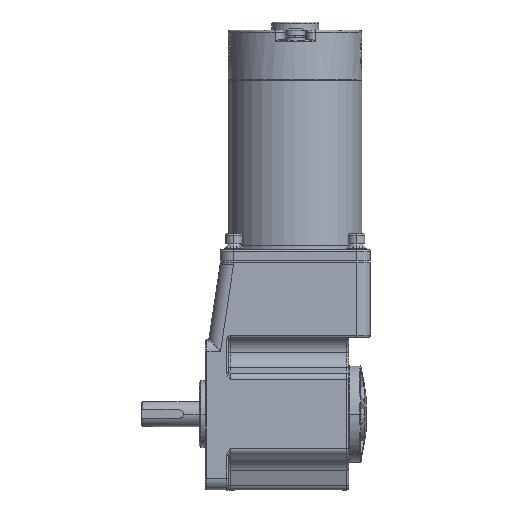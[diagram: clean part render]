
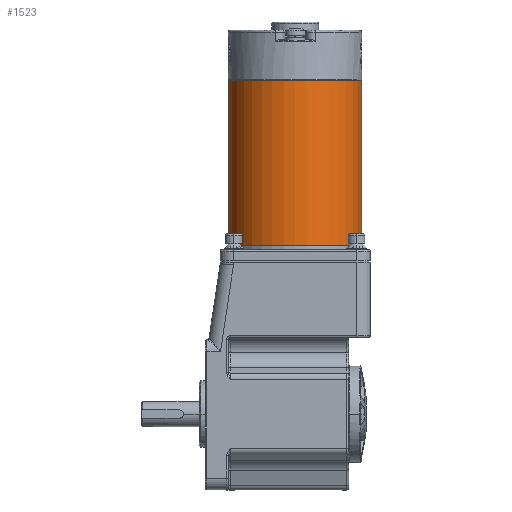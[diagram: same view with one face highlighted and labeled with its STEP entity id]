
A CAD part, front view. The second image highlights one B-rep face of the part: STEP entity #1523.
In plain terms, the highlighted cylindrical face has radius 40 mm (diameter 80 mm), a partial arc.
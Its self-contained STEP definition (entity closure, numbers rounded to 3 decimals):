
#660 = CARTESIAN_POINT ( 'NONE',  ( 0., 98.7, 0. ) ) ;
#1523 = ADVANCED_FACE ( 'NONE', ( #49406 ), #78069, .T. ) ;
#2664 = EDGE_CURVE ( 'NONE', #74170, #56957, #71638, .T. ) ;
#4097 = ORIENTED_EDGE ( 'NONE', *, *, #14475, .T. ) ;
#5392 = VECTOR ( 'NONE', #7338, 1000. ) ;
#5832 = DIRECTION ( 'NONE',  ( 0., 1., 0. ) ) ;
#7338 = DIRECTION ( 'NONE',  ( 0., 1., 0. ) ) ;
#11425 = AXIS2_PLACEMENT_3D ( 'NONE', #59346, #87520, #23206 ) ;
#14475 = EDGE_CURVE ( 'NONE', #68889, #25366, #82445, .T. ) ;
#17294 = EDGE_LOOP ( 'NONE', ( #62646, #58422, #65060, #4097, #40883 ) ) ;
#21317 = DIRECTION ( 'NONE',  ( 0., 0., 1. ) ) ;
#21866 = CIRCLE ( 'NONE', #11425, 40. ) ;
#23206 = DIRECTION ( 'NONE',  ( 0., 0., 1. ) ) ;
#25366 = VERTEX_POINT ( 'NONE', #48242 ) ;
#32235 = CARTESIAN_POINT ( 'NONE',  ( 0., 0., 40. ) ) ;
#36795 = DIRECTION ( 'NONE',  ( 0., -1., 0. ) ) ;
#38521 = VERTEX_POINT ( 'NONE', #58390 ) ;
#40086 = DIRECTION ( 'NONE',  ( 0., 1., 0. ) ) ;
#40883 = ORIENTED_EDGE ( 'NONE', *, *, #48681, .T. ) ;
#44406 = CIRCLE ( 'NONE', #53368, 40. ) ;
#45284 = CIRCLE ( 'NONE', #84347, 40. ) ;
#48242 = CARTESIAN_POINT ( 'NONE',  ( 0., 98.7, 40. ) ) ;
#48681 = EDGE_CURVE ( 'NONE', #25366, #56957, #44406, .T. ) ;
#49406 = FACE_OUTER_BOUND ( 'NONE', #17294, .T. ) ;
#52060 = CARTESIAN_POINT ( 'NONE',  ( 0., 0.3, 40. ) ) ;
#53318 = DIRECTION ( 'NONE',  ( 0., 1., 0. ) ) ;
#53368 = AXIS2_PLACEMENT_3D ( 'NONE', #660, #36795, #73383 ) ;
#55577 = CARTESIAN_POINT ( 'NONE',  ( 0., 0.3, -40. ) ) ;
#56957 = VERTEX_POINT ( 'NONE', #82624 ) ;
#58390 = CARTESIAN_POINT ( 'NONE',  ( -40., 0.3, 0. ) ) ;
#58422 = ORIENTED_EDGE ( 'NONE', *, *, #70302, .T. ) ;
#59346 = CARTESIAN_POINT ( 'NONE',  ( 0., 0.3, 0. ) ) ;
#62646 = ORIENTED_EDGE ( 'NONE', *, *, #2664, .F. ) ;
#65060 = ORIENTED_EDGE ( 'NONE', *, *, #77961, .T. ) ;
#68889 = VERTEX_POINT ( 'NONE', #52060 ) ;
#69636 = CARTESIAN_POINT ( 'NONE',  ( 0., 0., 0. ) ) ;
#70302 = EDGE_CURVE ( 'NONE', #74170, #38521, #45284, .T. ) ;
#70604 = CARTESIAN_POINT ( 'NONE',  ( 0., 0.3, 0. ) ) ;
#71638 = LINE ( 'NONE', #84369, #5392 ) ;
#73383 = DIRECTION ( 'NONE',  ( 0., 0., 1. ) ) ;
#74170 = VERTEX_POINT ( 'NONE', #55577 ) ;
#74908 = VECTOR ( 'NONE', #53318, 1000. ) ;
#76361 = AXIS2_PLACEMENT_3D ( 'NONE', #69636, #40086, #90316 ) ;
#77961 = EDGE_CURVE ( 'NONE', #38521, #68889, #21866, .T. ) ;
#78069 = CYLINDRICAL_SURFACE ( 'NONE', #76361, 40. ) ;
#82445 = LINE ( 'NONE', #32235, #74908 ) ;
#82624 = CARTESIAN_POINT ( 'NONE',  ( 0., 98.7, -40. ) ) ;
#84347 = AXIS2_PLACEMENT_3D ( 'NONE', #70604, #5832, #21317 ) ;
#84369 = CARTESIAN_POINT ( 'NONE',  ( 0., 0., -40. ) ) ;
#87520 = DIRECTION ( 'NONE',  ( 0., 1., 0. ) ) ;
#90316 = DIRECTION ( 'NONE',  ( 0., 0., 1. ) ) ;
